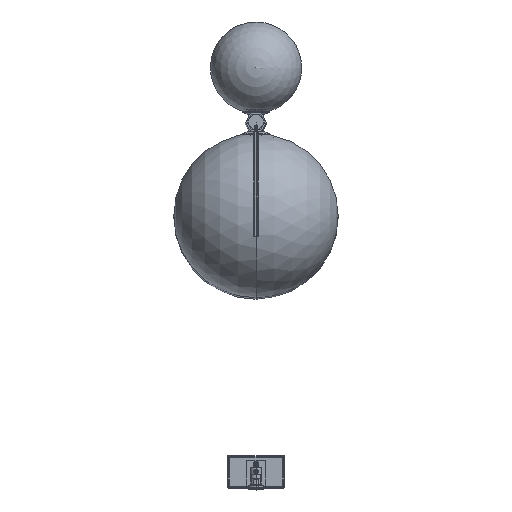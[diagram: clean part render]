
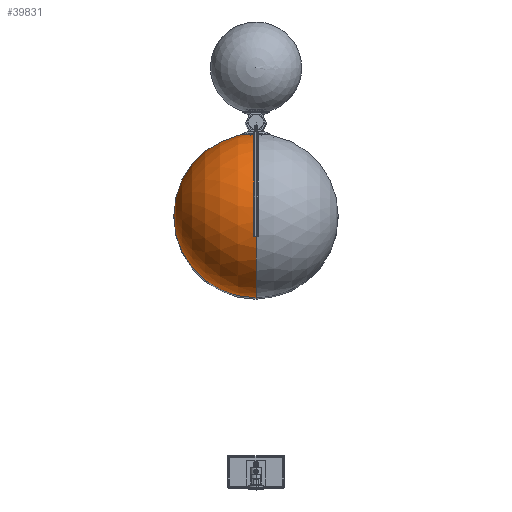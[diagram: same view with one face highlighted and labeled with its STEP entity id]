
A CAD part, top view. The second image highlights one B-rep face of the part: STEP entity #39831.
In plain terms, the highlighted spherical face has radius 90 mm.
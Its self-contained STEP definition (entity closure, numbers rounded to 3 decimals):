
#384 = CARTESIAN_POINT ( 'NONE',  ( 0., 89.038, 0. ) ) ;
#1299 = CARTESIAN_POINT ( 'NONE',  ( 0., 0., 0. ) ) ;
#5158 = CIRCLE ( 'NONE', #15647, 13.123 ) ;
#5685 = CARTESIAN_POINT ( 'NONE',  ( 0., 89.038, 0. ) ) ;
#6205 = DIRECTION ( 'NONE',  ( 1., 0., 0. ) ) ;
#7798 = ORIENTED_EDGE ( 'NONE', *, *, #52373, .F. ) ;
#8764 = CARTESIAN_POINT ( 'NONE',  ( -13.123, 89.038, 0. ) ) ;
#14794 = DIRECTION ( 'NONE',  ( 0., 1., 0. ) ) ;
#15240 = AXIS2_PLACEMENT_3D ( 'NONE', #26751, #50899, #6205 ) ;
#15647 = AXIS2_PLACEMENT_3D ( 'NONE', #5685, #60156, #45792 ) ;
#18139 = DIRECTION ( 'NONE',  ( 0., 0., -1. ) ) ;
#20730 = CIRCLE ( 'NONE', #57134, 90. ) ;
#21542 = ORIENTED_EDGE ( 'NONE', *, *, #53678, .F. ) ;
#22942 = VERTEX_POINT ( 'NONE', #52639 ) ;
#23043 = DIRECTION ( 'NONE',  ( -1., 0., 0. ) ) ;
#25201 = DIRECTION ( 'NONE',  ( 0., 0., 1. ) ) ;
#26751 = CARTESIAN_POINT ( 'NONE',  ( 0., 0., 0. ) ) ;
#27270 = CARTESIAN_POINT ( 'NONE',  ( 0., 0., 0. ) ) ;
#28141 = CIRCLE ( 'NONE', #40674, 13.123 ) ;
#28621 = VERTEX_POINT ( 'NONE', #52510 ) ;
#31002 = FACE_OUTER_BOUND ( 'NONE', #45819, .T. ) ;
#31949 = DIRECTION ( 'NONE',  ( -1., 0., 0. ) ) ;
#32258 = DIRECTION ( 'NONE',  ( 0., 0., 1. ) ) ;
#32348 = ORIENTED_EDGE ( 'NONE', *, *, #56447, .T. ) ;
#37216 = VERTEX_POINT ( 'NONE', #8764 ) ;
#39831 = ADVANCED_FACE ( 'NONE', ( #31002 ), #44684, .T. ) ;
#40674 = AXIS2_PLACEMENT_3D ( 'NONE', #384, #14794, #25201 ) ;
#44684 = SPHERICAL_SURFACE ( 'NONE', #54597, 90. ) ;
#45792 = DIRECTION ( 'NONE',  ( 0., 0., 1. ) ) ;
#45819 = EDGE_LOOP ( 'NONE', ( #57514, #32348, #21542, #7798 ) ) ;
#49258 = EDGE_CURVE ( 'NONE', #50754, #37216, #20730, .T. ) ;
#50754 = VERTEX_POINT ( 'NONE', #51096 ) ;
#50899 = DIRECTION ( 'NONE',  ( 0., 0., 1. ) ) ;
#51096 = CARTESIAN_POINT ( 'NONE',  ( 0., -90., 0. ) ) ;
#52373 = EDGE_CURVE ( 'NONE', #37216, #28621, #5158, .T. ) ;
#52510 = CARTESIAN_POINT ( 'NONE',  ( 0., 89.038, 13.123 ) ) ;
#52639 = CARTESIAN_POINT ( 'NONE',  ( 13.123, 89.038, 0. ) ) ;
#53678 = EDGE_CURVE ( 'NONE', #28621, #22942, #28141, .T. ) ;
#54597 = AXIS2_PLACEMENT_3D ( 'NONE', #1299, #32258, #31949 ) ;
#55814 = CIRCLE ( 'NONE', #15240, 90. ) ;
#56447 = EDGE_CURVE ( 'NONE', #50754, #22942, #55814, .T. ) ;
#57134 = AXIS2_PLACEMENT_3D ( 'NONE', #27270, #18139, #23043 ) ;
#57514 = ORIENTED_EDGE ( 'NONE', *, *, #49258, .F. ) ;
#60156 = DIRECTION ( 'NONE',  ( 0., 1., 0. ) ) ;
